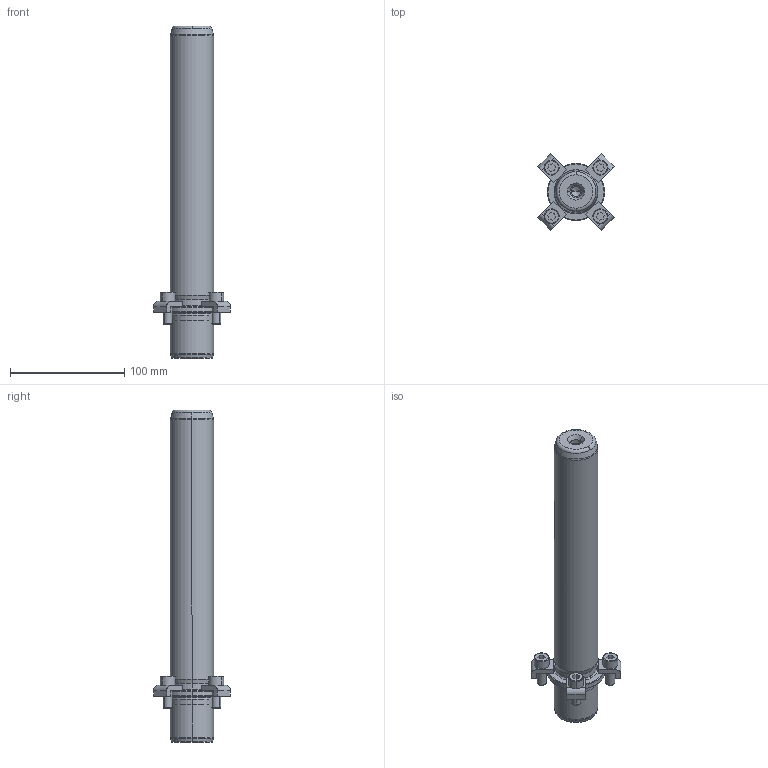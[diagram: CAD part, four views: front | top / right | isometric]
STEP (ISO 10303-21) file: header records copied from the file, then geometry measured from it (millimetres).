
FILE_DESCRIPTION((''),'2;1');
FILE_NAME('P21_038_250.stp','2008-12-23T10:56:35',(''),(''),'Mechanical Desktop 2009','Mechanical Desktop 2009',', , ');
FILE_SCHEMA(('CONFIG_CONTROL_DESIGN'));
Length unit declared in the file: millimetre
Products named in the file (2): Product; blmdl1
Assembly tree (1 placements, depth 2):
  Product
    blmdl1
Bounding box: 66.82 x 66.82 x 290 mm (x, y, z)
Volume: 339823.9 mm3; surface area: 48956.9 mm2
Topology: 9 solids, 9 shells, 195 faces, 477 edges, 309 vertices
Faces by surface type: plane 77, cylinder 52, cone 34, torus 16, bspline 16
Entity records: 6547 total; most frequent: CARTESIAN_POINT 1683, DIRECTION 1078, ORIENTED_EDGE 946, EDGE_CURVE 473, AXIS2_PLACEMENT_3D 424, VERTEX_POINT 309, CIRCLE 243, VECTOR 230
